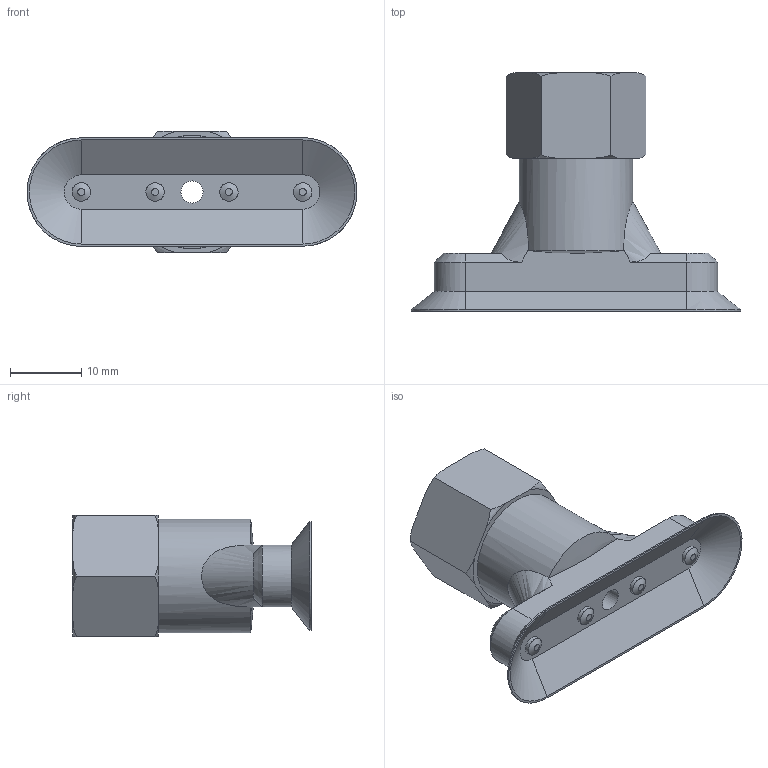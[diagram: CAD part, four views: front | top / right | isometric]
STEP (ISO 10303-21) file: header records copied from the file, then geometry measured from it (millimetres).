
FILE_DESCRIPTION (( 'STEP AP214' ), '1' );
FILE_NAME ('10FO.45X15.002.09-G14F.STEP', '2025-06-09T12:35:45', ( '' ), ( '' ), 'SwSTEP 2.0', 'SolidWorks 2025', '' );
FILE_SCHEMA (( 'AUTOMOTIVE_DESIGN' ));
Length unit declared in the file: inch
Products named in the file (3): 10FO.45X15.002.09; 130.098; 10FO.45X15.002.09-G14F
Assembly tree (2 placements, depth 2):
  10FO.45X15.002.09-G14F
    130.098
    10FO.45X15.002.09
Bounding box: 46.27 x 33.41 x 17 mm (x, y, z)
Volume: 5962.9 mm3; surface area: 5498.5 mm2
Topology: 2 solids, 2 shells, 90 faces, 213 edges, 138 vertices
Faces by surface type: plane 39, cylinder 20, bspline 13, torus 12, cone 6
Full cylindrical faces by diameter (mm): 2.587 x4, 3.105 x1, 7 x1, 11.445 x1, 11.75 x2, 11.902 x2, 13 x3, 13.558 x3, 15.939 x1
Entity records: 4497 total; most frequent: CARTESIAN_POINT 2662, ORIENTED_EDGE 354, DIRECTION 298, EDGE_CURVE 177, EDGE_LOOP 134, VERTEX_POINT 131, AXIS2_PLACEMENT_3D 130, FACE_OUTER_BOUND 112
